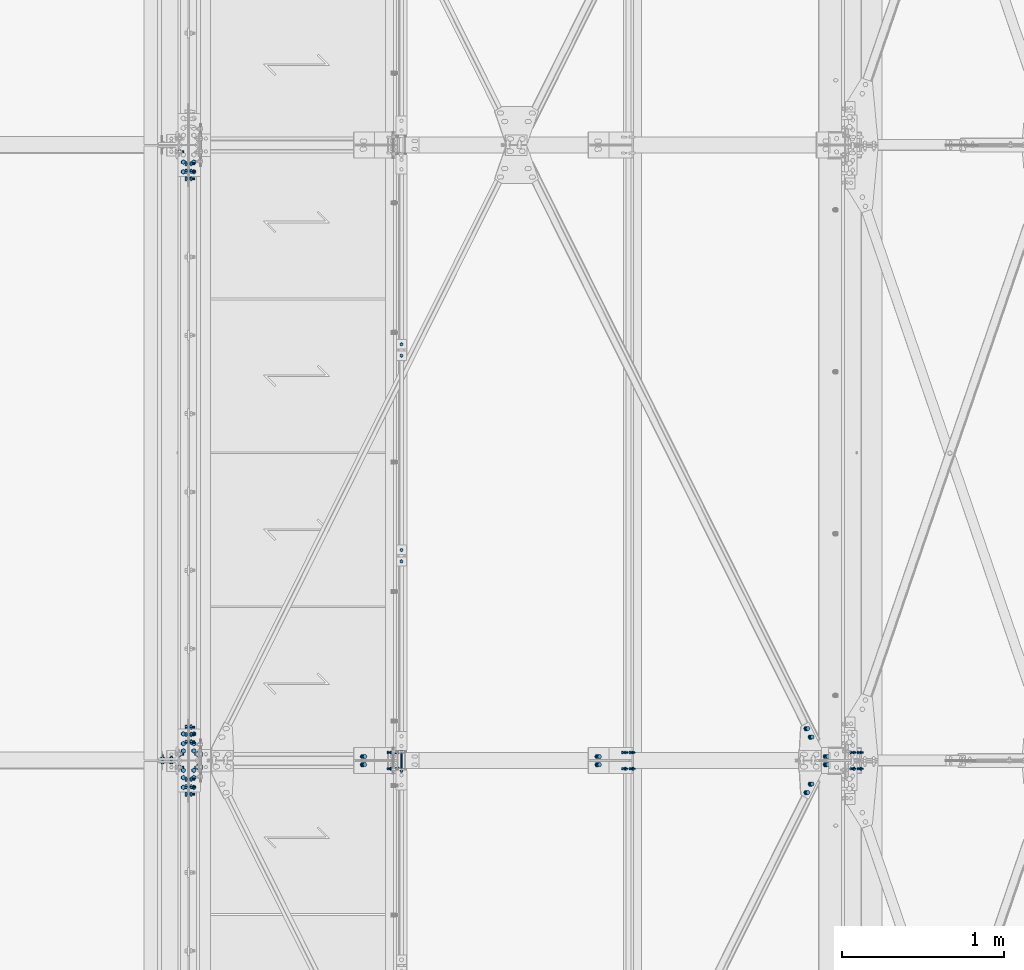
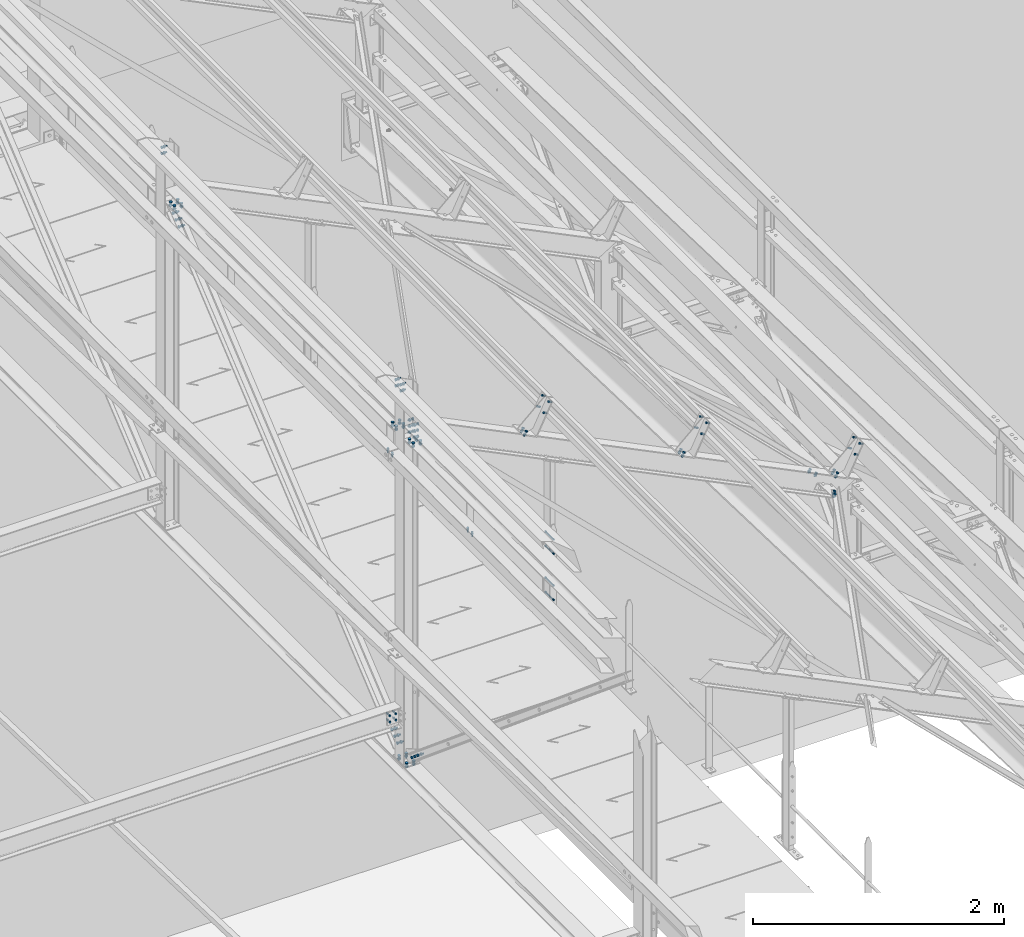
# One storey, part 191 of 362: 27 mechanical fasteners.
"""IFC2X3 building model written with IfcOpenShell, lengths in millimetres."""

from ifc_helpers import new_model, si_unit, frame, origin_with_axes, origin_2d_with_axis, place, context, subcontext, project, spatial, polyline, circle, outline, extrude, source, transform, mapped, material, type_object, element, save


model = new_model("IFC2X3")

# Units and contexts
model_context = context("Model", 3, precision=1e-05, world=origin_with_axes())
body_context = subcontext(model_context, "Body", "Model", "MODEL_VIEW")
ifc_project = project(units=[si_unit("LENGTHUNIT", "METRE", prefix="MILLI"), si_unit("AREAUNIT", "SQUARE_METRE"), si_unit("VOLUMEUNIT", "CUBIC_METRE"), si_unit("MASSUNIT", "GRAM", prefix="KILO"), si_unit("TIMEUNIT", "SECOND"), si_unit("PLANEANGLEUNIT", "RADIAN"), si_unit("SOLIDANGLEUNIT", "STERADIAN"), si_unit("THERMODYNAMICTEMPERATUREUNIT", "DEGREE_CELSIUS"), si_unit("LUMINOUSINTENSITYUNIT", "LUMEN")], contexts=[model_context])

# Site, building, storey
site_placement = place(None, origin_with_axes())
site = spatial("IfcSite", under=ifc_project, at=site_placement, Name="Undefined", CompositionType="ELEMENT")
building_placement = place(site_placement, origin_with_axes())
building = spatial("IfcBuilding", under=site, at=building_placement, Name="Undefined", CompositionType="ELEMENT")
storey_placement = place(building_placement, origin_with_axes())
storey = spatial("IfcBuildingStorey", under=building, at=storey_placement, Name="Undefined", CompositionType="ELEMENT", Elevation=0.0)

# Mechanical fasteners
ifc_material_1 = material(Name="8.8-SB-ZINGUE")
mechanical_fastener_type = type_object("IfcMechanicalFastenerType", Name="Bolt assembly")
shared_shape_1 = source(origin_with_axes(), body_context, "Body", "SweptSolid", [
    extrude(circle(Radius=7.0, at=origin_2d_with_axis()), frame((0.0, -0.100011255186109, 0.0), z_axis=(0.0, 1.0, 0.0), x_axis=(1.0, 0.0, 0.0)), (0.0, 0.0, 1.0), 3.1),
    extrude(circle(Radius=7.0, at=origin_2d_with_axis()), frame((0.0, -9.9, 0.0), z_axis=(0.0, 1.0, 0.0), x_axis=(1.0, 0.0, 0.0)), (0.0, 0.0, 1.0), 10.0),
    extrude(outline(polyline([(10.39230484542, 0.0), (5.19615242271, 9.00000000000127), (-5.19615242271, 9.00000000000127), (-10.39230484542, 0.0), (-5.19615242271, -9.00000000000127), (5.19615242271, -9.00000000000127), (10.39230484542, 0.0)])), frame((0.0, -17.92, 0.0), z_axis=(0.0, 1.0, 0.0), x_axis=(1.0, 0.0, 0.0)), (0.0, 0.0, 1.0), 7.92),
    extrude(circle(Radius=6.0, at=origin_2d_with_axis()), frame((0.0, -10.0000010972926, 0.0), z_axis=(0.0, 1.0, 0.0), x_axis=(1.0, 0.0, 0.0)), (0.0, 0.0, 1.0), 30.0),
    extrude(outline(polyline([(11.5008173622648, 0.0), (5.7504086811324, 9.96000000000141), (-5.7504086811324, 9.96000000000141), (-11.5008173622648, 0.0), (-5.7504086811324, -9.96000000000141), (5.7504086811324, -9.96000000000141), (11.5008173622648, 0.0)])), frame((0.0, 3.00000067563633, 0.0), z_axis=(0.0, 1.0, 0.0), x_axis=(1.0, 0.0, 0.0)), (0.0, 0.0, 1.0), 7.92),
])
mechanical_fastener_1_placement = place(storey_placement, frame((38381.4177064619, 7649.9999403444, 8807.89604207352), z_axis=(0.0, 1.0, 0.0), x_axis=(0.44122107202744, 0.0, 0.89739844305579)))
element("IfcMechanicalFastener", 1, at=mechanical_fastener_1_placement, inside=storey, type_object=mechanical_fastener_type, material=ifc_material_1, Name="Bolt assembly", NominalDiameter=12.0, NominalLength=30.0, context=body_context, shape_type="MappedRepresentation", body=[
    mapped(shared_shape_1, transform((0.0, 0.0, 0.0))),
    mapped(shared_shape_1, transform((99.9999999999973, -1.63709046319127e-11, 7.73070496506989e-12))),
])
shared_shape_2 = source(origin_with_axes(), body_context, "Body", "SweptSolid", [
    extrude(circle(Radius=7.0, at=origin_2d_with_axis()), frame((0.0, -0.10007666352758, 0.0), z_axis=(0.0, 1.0, 0.0), x_axis=(1.0, 0.0, 0.0)), (0.0, 0.0, 1.0), 3.1),
    extrude(circle(Radius=7.0, at=origin_2d_with_axis()), frame((0.0, -9.9, 0.0), z_axis=(0.0, 1.0, 0.0), x_axis=(1.0, 0.0, 0.0)), (0.0, 0.0, 1.0), 10.0),
    extrude(outline(polyline([(10.39230484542, 0.0), (5.19615242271, 9.00000000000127), (-5.19615242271, 9.00000000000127), (-10.39230484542, 0.0), (-5.19615242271, -9.00000000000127), (5.19615242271, -9.00000000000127), (10.39230484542, 0.0)])), frame((0.0, -17.92, 0.0), z_axis=(0.0, 1.0, 0.0), x_axis=(1.0, 0.0, 0.0)), (0.0, 0.0, 1.0), 7.92),
    extrude(circle(Radius=6.0, at=origin_2d_with_axis()), frame((0.0, -10.0000010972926, 0.0), z_axis=(0.0, 1.0, 0.0), x_axis=(1.0, 0.0, 0.0)), (0.0, 0.0, 1.0), 30.0),
    extrude(outline(polyline([(11.5008173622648, 0.0), (5.7504086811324, 9.96000000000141), (-5.7504086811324, 9.96000000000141), (-11.5008173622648, 0.0), (-5.7504086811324, -9.96000000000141), (5.7504086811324, -9.96000000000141), (11.5008173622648, 0.0)])), frame((0.0, 3.00000067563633, 0.0), z_axis=(0.0, 1.0, 0.0), x_axis=(1.0, 0.0, 0.0)), (0.0, 0.0, 1.0), 7.92),
])
mechanical_fastener_2_placement = place(storey_placement, frame((38381.4177064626, 7550.0000596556, 8807.89604207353), z_axis=(0.0, 1.0, 0.0), x_axis=(0.44122107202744, 0.0, 0.89739844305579)))
element("IfcMechanicalFastener", 2, at=mechanical_fastener_2_placement, inside=storey, type_object=mechanical_fastener_type, material=ifc_material_1, Name="Bolt assembly", NominalDiameter=12.0, NominalLength=30.0, context=body_context, shape_type="MappedRepresentation", body=[
    mapped(shared_shape_2, transform((0.0, 0.0, 0.0))),
    mapped(shared_shape_2, transform((99.9999999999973, -1.63709046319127e-11, 7.73070496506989e-12))),
])
shared_shape_3 = source(origin_with_axes(), body_context, "Body", "SweptSolid", [
    extrude(circle(Radius=9.0, at=origin_2d_with_axis()), frame((0.0, -10.9000000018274, 0.0), z_axis=(0.0, 1.0, 0.0), x_axis=(1.0, 0.0, 0.0)), (0.0, 0.0, 1.0), 6.0),
    extrude(circle(Radius=9.0, at=origin_2d_with_axis()), frame((0.0, 4.9000000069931, 0.0), z_axis=(0.0, 1.0, 0.0), x_axis=(1.0, 0.0, 0.0)), (0.0, 0.0, 1.0), 6.1),
    extrude(circle(Radius=9.0, at=origin_2d_with_axis()), frame((0.0, -3.99999923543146, 0.0), z_axis=(0.0, 1.0, 0.0), x_axis=(1.0, 0.0, 0.0)), (0.0, 0.0, 1.0), 8.0),
    extrude(outline(polyline([(13.85640646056, 0.0), (6.92820323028, 12.0000000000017), (-6.92820323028, 12.0000000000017), (-13.85640646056, 0.0), (-6.92820323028, -12.0000000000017), (6.92820323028, -12.0000000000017), (13.85640646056, 0.0)])), frame((0.0, -21.5600000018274, 0.0), z_axis=(0.0, 1.0, 0.0), x_axis=(1.0, 0.0, 0.0)), (0.0, 0.0, 1.0), 10.56),
    extrude(circle(Radius=8.0, at=origin_2d_with_axis()), frame((0.0, -11.0000000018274, 0.0), z_axis=(0.0, 1.0, 0.0), x_axis=(1.0, 0.0, 0.0)), (0.0, 0.0, 1.0), 50.0),
    extrude(outline(polyline([(15.3344231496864, 0.0), (7.6672115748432, 13.2800000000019), (-7.6672115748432, 13.2800000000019), (-15.3344231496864, 0.0), (-7.6672115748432, -13.2800000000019), (7.6672115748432, -13.2800000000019), (15.3344231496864, 0.0)])), frame((0.0, 11.0000000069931, 0.0), z_axis=(0.0, 1.0, 0.0), x_axis=(1.0, 0.0, 0.0)), (0.0, 0.0, 1.0), 10.56),
])
for number, where, z_axis, x_axis, name in (
    (3, (34280.0, 7715.13876122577, 7346.14086364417), (0.0, 0.640939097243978, -0.7675917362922), (0.0, 0.7675917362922, 0.640939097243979), "Bolt assembly"),
    (4, (34280.0, 7484.86123932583, 7346.14086413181), (0.0, 0.640939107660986, 0.767591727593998), (0.0, -0.767591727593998, 0.640939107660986), "Bolt assembly"),
    (5, (34280.0, 11284.8612400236, 10326.8591349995), (0.0, -0.640939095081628, 0.767591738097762), (0.0, -0.767591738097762, -0.640939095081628), "Bolt assembly"),
):
    element("IfcMechanicalFastener", number, at=place(storey_placement, frame(where, z_axis=z_axis, x_axis=x_axis)), inside=storey, type_object=mechanical_fastener_type, material=ifc_material_1, Name=name, NominalDiameter=16.0, NominalLength=50.0, context=body_context, shape_type="MappedRepresentation", body=[
        mapped(shared_shape_3, transform((0.0, 0.0, 0.0))),
        mapped(shared_shape_3, transform((60.0, 0.0, 0.0))),
        mapped(shared_shape_3, transform((120.0, 0.0, 0.0))),
    ])
shared_shape_4 = source(origin_with_axes(), body_context, "Body", "SweptSolid", [
    extrude(circle(Radius=7.0, at=origin_2d_with_axis()), frame((0.0, -10.0000010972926, 0.0), z_axis=(0.0, 1.0, 0.0), x_axis=(1.0, 0.0, 0.0)), (0.0, 0.0, 1.0), 10.1),
    extrude(outline(polyline([(10.39230484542, 0.0), (5.19615242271, 9.00000000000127), (-5.19615242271, 9.00000000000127), (-10.39230484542, 0.0), (-5.19615242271, -9.00000000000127), (5.19615242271, -9.00000000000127), (10.39230484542, 0.0)])), frame((0.0, -17.92, 0.0), z_axis=(0.0, 1.0, 0.0), x_axis=(1.0, 0.0, 0.0)), (0.0, 0.0, 1.0), 7.92),
    extrude(circle(Radius=6.0, at=origin_2d_with_axis()), frame((0.0, -10.0000010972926, 0.0), z_axis=(0.0, 1.0, 0.0), x_axis=(1.0, 0.0, 0.0)), (0.0, 0.0, 1.0), 40.0),
    extrude(outline(polyline([(11.5008173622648, 0.0), (5.7504086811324, 9.96000000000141), (-5.7504086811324, 9.96000000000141), (-11.5008173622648, 0.0), (-5.7504086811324, -9.96000000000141), (5.7504086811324, -9.96000000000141), (11.5008173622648, 0.0)])), frame((0.0, 0.0, 0.0), z_axis=(0.0, 1.0, 0.0), x_axis=(1.0, 0.0, 0.0)), (0.0, 0.0, 1.0), 7.92),
])
for number, where, z_axis, x_axis, name in (
    (6, (35593.9917176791, 8830.00343196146, 8240.00000102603), (-1.0, 0.0, 0.0), (0.0, 1.0, 0.0), "Bolt assembly"),
    (7, (35593.9917187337, 10100.0034319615, 8240.00000015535), (-1.0, 0.0, 0.0), (0.0, 1.0, 0.0), "Bolt assembly"),
):
    element("IfcMechanicalFastener", number, at=place(storey_placement, frame(where, z_axis=z_axis, x_axis=x_axis)), inside=storey, type_object=mechanical_fastener_type, material=ifc_material_1, Name=name, NominalDiameter=12.0, NominalLength=40.0, context=body_context, shape_type="MappedRepresentation", body=[
        mapped(shared_shape_4, transform((0.0, 0.0, 0.0))),
        mapped(shared_shape_4, transform((70.0, -2.91038304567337e-11, 2.18278728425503e-10))),
    ])
ifc_material_2 = material(Name="6.8")
shared_shape_5 = source(origin_with_axes(), body_context, "Body", "SweptSolid", [
    extrude(circle(Radius=7.0, at=origin_2d_with_axis()), frame((0.0, -49.9999013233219, 0.0), z_axis=(0.0, 1.0, 0.0), x_axis=(1.0, 0.0, 0.0)), (0.0, 0.0, 1.0), 100.0),
    extrude(circle(Radius=7.0, at=origin_2d_with_axis()), frame((0.0, -57.3998951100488, 0.0), z_axis=(0.0, 1.0, 0.0), x_axis=(1.0, 0.0, 0.0)), (0.0, 0.0, 1.0), 5.0),
    extrude(circle(Radius=7.0, at=origin_2d_with_axis()), frame((0.0, 52.4001048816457, 0.0), z_axis=(0.0, 1.0, 0.0), x_axis=(1.0, 0.0, 0.0)), (0.0, 0.0, 1.0), 5.1),
    extrude(outline(polyline([(10.96965511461, 0.0), (5.484827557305, 9.50000000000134), (-5.484827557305, 9.50000000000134), (-10.96965511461, 0.0), (-5.484827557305, -9.50000000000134), (5.484827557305, -9.50000000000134), (10.96965511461, 0.0)])), frame((0.0, -65.4998951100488, 0.0), z_axis=(0.0, 1.0, 0.0), x_axis=(1.0, 0.0, 0.0)), (0.0, 0.0, 1.0), 8.0),
    extrude(circle(Radius=6.0, at=origin_2d_with_axis()), frame((0.0, -57.4998951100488, 0.0), z_axis=(0.0, 1.0, 0.0), x_axis=(1.0, 0.0, 0.0)), (0.0, 0.0, 1.0), 130.0),
    extrude(outline(polyline([(10.39230484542, 0.0), (5.19615242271, 9.00000000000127), (-5.19615242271, 9.00000000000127), (-10.39230484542, 0.0), (-5.19615242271, -9.00000000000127), (5.19615242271, -9.00000000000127), (10.39230484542, 0.0)])), frame((0.0, 57.5001048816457, 0.0), z_axis=(0.0, 1.0, 0.0), x_axis=(1.0, 0.0, 0.0)), (0.0, 0.0, 1.0), 10.8),
])
for number, where, z_axis, x_axis, name in (
    (8, (35593.991717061, 7600.0000987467, 8450.17500434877), (0.0, 0.0, 1.0), (-1.0, 0.0, 0.0), "Bolt assembly"),
    (9, (35593.9917170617, 7600.00009908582, 8897.42500135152), (0.0, 0.0, 1.0), (-1.0, 0.0, 0.0), "Bolt assembly"),
):
    element("IfcMechanicalFastener", number, at=place(storey_placement, frame(where, z_axis=z_axis, x_axis=x_axis)), inside=storey, type_object=mechanical_fastener_type, material=ifc_material_2, Name=name, NominalDiameter=12.0, NominalLength=130.0, context=body_context, shape_type="MappedRepresentation", body=[
        mapped(shared_shape_5, transform((0.0, 6.3664629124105e-11, -70.0))),
        mapped(shared_shape_5, transform((0.0, -6.3664629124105e-11, 70.0))),
    ])
shared_shape_6 = source(origin_with_axes(), body_context, "Body", "SweptSolid", [
    extrude(circle(Radius=9.0, at=origin_2d_with_axis()), frame((0.0, -0.0999426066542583, 0.0), z_axis=(0.0, 1.0, 0.0), x_axis=(1.0, 0.0, 0.0)), (0.0, 0.0, 1.0), 8.6),
    extrude(circle(Radius=9.0, at=origin_2d_with_axis()), frame((0.0, -9.9, 0.0), z_axis=(0.0, 1.0, 0.0), x_axis=(1.0, 0.0, 0.0)), (0.0, 0.0, 1.0), 10.0),
    extrude(outline(polyline([(13.85640646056, 0.0), (6.92820323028, 12.0000000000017), (-6.92820323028, 12.0000000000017), (-13.85640646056, 0.0), (-6.92820323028, -12.0000000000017), (6.92820323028, -12.0000000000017), (13.85640646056, 0.0)])), frame((0.0, -20.5600000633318, 0.0), z_axis=(0.0, 1.0, 0.0), x_axis=(1.0, 0.0, 0.0)), (0.0, 0.0, 1.0), 10.56),
    extrude(circle(Radius=8.0, at=origin_2d_with_axis()), frame((0.0, -10.0000010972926, 0.0), z_axis=(0.0, 1.0, 0.0), x_axis=(1.0, 0.0, 0.0)), (0.0, 0.0, 1.0), 40.0),
    extrude(outline(polyline([(15.3344231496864, 0.0), (7.6672115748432, 13.2800000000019), (-7.6672115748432, 13.2800000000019), (-15.3344231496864, 0.0), (-7.6672115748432, -13.2800000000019), (7.6672115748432, -13.2800000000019), (15.3344231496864, 0.0)])), frame((0.0, 8.49999994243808, 0.0), z_axis=(0.0, 1.0, 0.0), x_axis=(1.0, 0.0, 0.0)), (0.0, 0.0, 1.0), 10.56),
])
for number, where, z_axis, x_axis, name in (
    (10, (38216.9694189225, 7600.00003751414, 8654.74008236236), (0.0, 1.0, 0.0), (0.897398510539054, 0.0, -0.44122093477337), "Bolt assembly"),
    (11, (35359.6856608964, 7600.00003751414, 10059.5712647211), (0.0, 1.0, 0.0), (0.897398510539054, 0.0, -0.44122093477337), "Bolt assembly"),
    (12, (36808.5189947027, 7600.00003751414, 9347.22820826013), (0.0, 1.0, 0.0), (0.897398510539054, 0.0, -0.44122093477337), "Bolt assembly"),
):
    element("IfcMechanicalFastener", number, at=place(storey_placement, frame(where, z_axis=z_axis, x_axis=x_axis)), inside=storey, type_object=mechanical_fastener_type, material=ifc_material_1, Name=name, NominalDiameter=16.0, NominalLength=40.0, context=body_context, shape_type="MappedRepresentation", body=[
        mapped(shared_shape_6, transform((0.0, 0.0, -25.0))),
        mapped(shared_shape_6, transform((0.0, 0.0, 25.0))),
    ])
shared_shape_7 = source(origin_with_axes(), body_context, "Body", "SweptSolid", [
    extrude(circle(Radius=7.0, at=origin_2d_with_axis()), frame((0.0, -0.100011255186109, 0.0), z_axis=(0.0, 1.0, 0.0), x_axis=(1.0, 0.0, 0.0)), (0.0, 0.0, 1.0), 1.6),
    extrude(circle(Radius=7.0, at=origin_2d_with_axis()), frame((0.0, -9.9, 0.0), z_axis=(0.0, 1.0, 0.0), x_axis=(1.0, 0.0, 0.0)), (0.0, 0.0, 1.0), 10.0),
    extrude(outline(polyline([(10.39230484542, 0.0), (5.19615242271, 9.00000000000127), (-5.19615242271, 9.00000000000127), (-10.39230484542, 0.0), (-5.19615242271, -9.00000000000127), (5.19615242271, -9.00000000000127), (10.39230484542, 0.0)])), frame((0.0, -17.92, 0.0), z_axis=(0.0, 1.0, 0.0), x_axis=(1.0, 0.0, 0.0)), (0.0, 0.0, 1.0), 7.92),
    extrude(circle(Radius=6.0, at=origin_2d_with_axis()), frame((0.0, -10.0000010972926, 0.0), z_axis=(0.0, 1.0, 0.0), x_axis=(1.0, 0.0, 0.0)), (0.0, 0.0, 1.0), 30.0),
    extrude(outline(polyline([(11.5008173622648, 0.0), (5.7504086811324, 9.96000000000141), (-5.7504086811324, 9.96000000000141), (-11.5008173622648, 0.0), (-5.7504086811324, -9.96000000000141), (5.7504086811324, -9.96000000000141), (11.5008173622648, 0.0)])), frame((0.0, 1.50001896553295, 0.0), z_axis=(0.0, 1.0, 0.0), x_axis=(1.0, 0.0, 0.0)), (0.0, 0.0, 1.0), 7.92),
])
for number, where, z_axis, x_axis, name in (
    (13, (35523.6927273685, 7649.9999403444, 10211.8298259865), (0.0, 1.0, 0.0), (0.44122107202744, 0.0, 0.89739844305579), "Bolt assembly"),
    (14, (36972.5260611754, 7649.9999403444, 9499.48676952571), (0.0, 1.0, 0.0), (0.44122107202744, 0.0, 0.89739844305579), "Bolt assembly"),
):
    element("IfcMechanicalFastener", number, at=place(storey_placement, frame(where, z_axis=z_axis, x_axis=x_axis)), inside=storey, type_object=mechanical_fastener_type, material=ifc_material_1, Name=name, NominalDiameter=12.0, NominalLength=30.0, context=body_context, shape_type="MappedRepresentation", body=[
        mapped(shared_shape_7, transform((0.0, 0.0, 0.0))),
        mapped(shared_shape_7, transform((102.00000000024, -2.51020537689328e-10, 0.0))),
    ])
shared_shape_8 = source(origin_with_axes(), body_context, "Body", "SweptSolid", [
    extrude(circle(Radius=7.0, at=origin_2d_with_axis()), frame((0.0, -0.10007666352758, 0.0), z_axis=(0.0, 1.0, 0.0), x_axis=(1.0, 0.0, 0.0)), (0.0, 0.0, 1.0), 1.6),
    extrude(circle(Radius=7.0, at=origin_2d_with_axis()), frame((0.0, -9.9, 0.0), z_axis=(0.0, 1.0, 0.0), x_axis=(1.0, 0.0, 0.0)), (0.0, 0.0, 1.0), 10.0),
    extrude(outline(polyline([(10.39230484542, 0.0), (5.19615242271, 9.00000000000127), (-5.19615242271, 9.00000000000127), (-10.39230484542, 0.0), (-5.19615242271, -9.00000000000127), (5.19615242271, -9.00000000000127), (10.39230484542, 0.0)])), frame((0.0, -17.92, 0.0), z_axis=(0.0, 1.0, 0.0), x_axis=(1.0, 0.0, 0.0)), (0.0, 0.0, 1.0), 7.92),
    extrude(circle(Radius=6.0, at=origin_2d_with_axis()), frame((0.0, -10.0000010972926, 0.0), z_axis=(0.0, 1.0, 0.0), x_axis=(1.0, 0.0, 0.0)), (0.0, 0.0, 1.0), 30.0),
    extrude(outline(polyline([(11.5008173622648, 0.0), (5.7504086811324, 9.96000000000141), (-5.7504086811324, 9.96000000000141), (-11.5008173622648, 0.0), (-5.7504086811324, -9.96000000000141), (5.7504086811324, -9.96000000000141), (11.5008173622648, 0.0)])), frame((0.0, 1.49996853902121, 0.0), z_axis=(0.0, 1.0, 0.0), x_axis=(1.0, 0.0, 0.0)), (0.0, 0.0, 1.0), 7.92),
])
for number, where, z_axis, x_axis, name in (
    (15, (35523.6927273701, 7550.0000596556, 10211.8298259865), (0.0, 1.0, 0.0), (0.44122107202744, 0.0, 0.89739844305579), "Bolt assembly"),
    (16, (36972.5260611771, 7550.0000596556, 9499.48676952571), (0.0, 1.0, 0.0), (0.44122107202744, 0.0, 0.89739844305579), "Bolt assembly"),
):
    element("IfcMechanicalFastener", number, at=place(storey_placement, frame(where, z_axis=z_axis, x_axis=x_axis)), inside=storey, type_object=mechanical_fastener_type, material=ifc_material_1, Name=name, NominalDiameter=12.0, NominalLength=30.0, context=body_context, shape_type="MappedRepresentation", body=[
        mapped(shared_shape_8, transform((0.0, 0.0, 0.0))),
        mapped(shared_shape_8, transform((102.00000000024, -2.51020537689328e-10, 0.0))),
    ])
ifc_material_3 = material(Name="#_SB-8.8-ZINGUE")
shared_shape_9 = source(origin_with_axes(), body_context, "Body", "SweptSolid", [
    extrude(circle(Radius=9.0, at=origin_2d_with_axis()), frame((0.0, -4.89876448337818, 0.0), z_axis=(0.0, 1.0, 0.0), x_axis=(1.0, 0.0, 0.0)), (0.0, 0.0, 1.0), 5.0),
    extrude(circle(Radius=9.0, at=origin_2d_with_axis()), frame((0.0, -0.100011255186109, 0.0), z_axis=(0.0, 1.0, 0.0), x_axis=(1.0, 0.0, 0.0)), (0.0, 0.0, 1.0), 6.1),
    extrude(outline(polyline([(13.85640646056, 0.0), (6.92820323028, 12.0000000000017), (-6.92820323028, 12.0000000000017), (-13.85640646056, 0.0), (-6.92820323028, -12.0000000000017), (6.92820323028, -12.0000000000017), (13.85640646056, 0.0)])), frame((0.0, -15.5587644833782, 0.0), z_axis=(0.0, 1.0, 0.0), x_axis=(1.0, 0.0, 0.0)), (0.0, 0.0, 1.0), 10.56),
    extrude(circle(Radius=8.0, at=origin_2d_with_axis()), frame((0.0, -4.99876448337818, 0.0), z_axis=(0.0, 1.0, 0.0), x_axis=(1.0, 0.0, 0.0)), (0.0, 0.0, 1.0), 30.0),
    extrude(outline(polyline([(15.3344231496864, 0.0), (7.6672115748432, 13.2800000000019), (-7.6672115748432, 13.2800000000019), (-15.3344231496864, 0.0), (-7.6672115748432, -13.2800000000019), (7.6672115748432, -13.2800000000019), (15.3344231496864, 0.0)])), frame((0.0, 6.0, 0.0), z_axis=(0.0, 1.0, 0.0), x_axis=(1.0, 0.0, 0.0)), (0.0, 0.0, 1.0), 10.56),
])
for number, where, z_axis, x_axis, name in (
    (17, (38123.2127006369, 7454.91117223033, 8589.40520284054), (0.784869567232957, -0.484835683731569, -0.385893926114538), (-0.43509087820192, -0.874605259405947, 0.213919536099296), "Bolt assembly"),
    (18, (38123.2126962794, 7745.08959124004, 8589.40520284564), (-0.78486955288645, -0.48483570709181, 0.385893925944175), (-0.435090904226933, 0.874605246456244, 0.213919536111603), "Bolt assembly"),
):
    element("IfcMechanicalFastener", number, at=place(storey_placement, frame(where, z_axis=z_axis, x_axis=x_axis)), inside=storey, type_object=mechanical_fastener_type, material=ifc_material_3, Name=name, NominalDiameter=16.0, NominalLength=30.0, context=body_context, shape_type="MappedRepresentation", body=[
        mapped(shared_shape_9, transform((0.0, 0.0, 0.0))),
        mapped(shared_shape_9, transform((60.0, 0.0, 0.0))),
    ])
shared_shape_10 = source(origin_with_axes(), body_context, "Body", "SweptSolid", [
    extrude(circle(Radius=9.0, at=origin_2d_with_axis()), frame((0.0, -0.091713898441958, 0.0), z_axis=(0.0, 1.0, 0.0), x_axis=(1.0, 0.0, 0.0)), (0.0, 0.0, 1.0), 8.6),
    extrude(circle(Radius=9.0, at=origin_2d_with_axis()), frame((0.0, -9.89171439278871, 0.0), z_axis=(0.0, 1.0, 0.0), x_axis=(1.0, 0.0, 0.0)), (0.0, 0.0, 1.0), 10.0),
    extrude(outline(polyline([(13.85640646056, 0.0), (6.92820323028, 12.0000000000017), (-6.92820323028, 12.0000000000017), (-13.85640646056, 0.0), (-6.92820323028, -12.0000000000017), (6.92820323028, -12.0000000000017), (13.85640646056, 0.0)])), frame((0.0, -20.5517143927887, 0.0), z_axis=(0.0, 1.0, 0.0), x_axis=(1.0, 0.0, 0.0)), (0.0, 0.0, 1.0), 10.56),
    extrude(circle(Radius=8.0, at=origin_2d_with_axis()), frame((0.0, -9.99171439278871, 0.0), z_axis=(0.0, 1.0, 0.0), x_axis=(1.0, 0.0, 0.0)), (0.0, 0.0, 1.0), 40.0),
    extrude(outline(polyline([(15.3344231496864, 0.0), (7.6672115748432, 13.2800000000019), (-7.6672115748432, 13.2800000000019), (-15.3344231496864, 0.0), (-7.6672115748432, -13.2800000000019), (7.6672115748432, -13.2800000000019), (15.3344231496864, 0.0)])), frame((0.0, 8.50828610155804, 0.0), z_axis=(0.0, 1.0, 0.0), x_axis=(1.0, 0.0, 0.0)), (0.0, 0.0, 1.0), 10.56),
])
mechanical_fastener_3_placement = place(storey_placement, frame((34346.5082856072, 7560.0, 10446.3709529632), z_axis=(0.0, 0.0, 1.0), x_axis=(0.0, 1.0, 0.0)))
element("IfcMechanicalFastener", 19, at=mechanical_fastener_3_placement, inside=storey, type_object=mechanical_fastener_type, material=ifc_material_1, Name="Bolt assembly", NominalDiameter=16.0, NominalLength=40.0, context=body_context, shape_type="MappedRepresentation", body=[
    mapped(shared_shape_10, transform((0.0, 0.0, -60.0))),
    mapped(shared_shape_10, transform((80.0, 0.0, -60.0))),
    mapped(shared_shape_10, transform((0.0, 0.0, 0.0))),
    mapped(shared_shape_10, transform((80.0, 0.0, 0.0))),
    mapped(shared_shape_10, transform((0.0, 0.0, 60.0))),
    mapped(shared_shape_10, transform((80.0, 0.0, 60.0))),
])
shared_shape_11 = source(origin_with_axes(), body_context, "Body", "SweptSolid", [
    extrude(circle(Radius=9.0, at=origin_2d_with_axis()), frame((0.0, -0.100011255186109, 0.0), z_axis=(0.0, 1.0, 0.0), x_axis=(1.0, 0.0, 0.0)), (0.0, 0.0, 1.0), 8.6),
    extrude(circle(Radius=9.0, at=origin_2d_with_axis()), frame((0.0, -2.9, 0.0), z_axis=(0.0, 1.0, 0.0), x_axis=(1.0, 0.0, 0.0)), (0.0, 0.0, 1.0), 3.0),
    extrude(outline(polyline([(13.85640646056, 0.0), (6.92820323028, 12.0000000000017), (-6.92820323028, 12.0000000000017), (-13.85640646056, 0.0), (-6.92820323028, -12.0000000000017), (6.92820323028, -12.0000000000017), (13.85640646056, 0.0)])), frame((0.0, -13.56, 0.0), z_axis=(0.0, 1.0, 0.0), x_axis=(1.0, 0.0, 0.0)), (0.0, 0.0, 1.0), 10.56),
    extrude(circle(Radius=8.0, at=origin_2d_with_axis()), frame((0.0, -2.99999932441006, 0.0), z_axis=(0.0, 1.0, 0.0), x_axis=(1.0, 0.0, 0.0)), (0.0, 0.0, 1.0), 40.0),
    extrude(outline(polyline([(15.3344231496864, 0.0), (7.6672115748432, 13.2800000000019), (-7.6672115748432, 13.2800000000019), (-15.3344231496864, 0.0), (-7.6672115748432, -13.2800000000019), (7.6672115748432, -13.2800000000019), (15.3344231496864, 0.0)])), frame((0.0, 8.49999994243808, 0.0), z_axis=(0.0, 1.0, 0.0), x_axis=(1.0, 0.0, 0.0)), (0.0, 0.0, 1.0), 10.56),
])
for number, where, z_axis, x_axis, name in (
    (20, (34213.49999895, 7639.99695097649, 10880.8421014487), (0.0, 1.0, 0.0), (0.0, 0.0, 1.0), "Bolt assembly"),
    (21, (34213.49999895, 7559.99999584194, 10880.8421014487), (0.0, 1.0, 0.0), (0.0, 0.0, 1.0), "Bolt assembly"),
    (22, (34213.49999895, 11359.9999958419, 10880.8421014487), (0.0, 1.0, 0.0), (0.0, 0.0, 1.0), "Bolt assembly"),
):
    element("IfcMechanicalFastener", number, at=place(storey_placement, frame(where, z_axis=z_axis, x_axis=x_axis)), inside=storey, type_object=mechanical_fastener_type, material=ifc_material_1, Name=name, NominalDiameter=16.0, NominalLength=40.0, context=body_context, shape_type="MappedRepresentation", body=[
        mapped(shared_shape_11, transform((0.0, 0.0, 0.0))),
        mapped(shared_shape_11, transform((60.0, 0.0, 0.0))),
    ])
shared_shape_12 = source(origin_with_axes(), body_context, "Body", "SweptSolid", [
    extrude(circle(Radius=7.0, at=origin_2d_with_axis()), frame((0.0, -2.80024280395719, 0.0), z_axis=(0.0, 1.0, 0.0), x_axis=(1.0, 0.0, 0.0)), (0.0, 0.0, 1.0), 5.6),
    extrude(circle(Radius=7.0, at=origin_2d_with_axis()), frame((0.0, -12.9001594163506, 0.0), z_axis=(0.0, 1.0, 0.0), x_axis=(1.0, 0.0, 0.0)), (0.0, 0.0, 1.0), 10.0),
    extrude(circle(Radius=7.0, at=origin_2d_with_axis()), frame((0.0, 2.90070287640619, 0.0), z_axis=(0.0, 1.0, 0.0), x_axis=(1.0, 0.0, 0.0)), (0.0, 0.0, 1.0), 10.1),
    extrude(outline(polyline([(10.39230484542, 0.0), (5.19615242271, 9.00000000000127), (-5.19615242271, 9.00000000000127), (-10.39230484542, 0.0), (-5.19615242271, -9.00000000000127), (5.19615242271, -9.00000000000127), (10.39230484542, 0.0)])), frame((0.0, -20.9201594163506, 0.0), z_axis=(0.0, 1.0, 0.0), x_axis=(1.0, 0.0, 0.0)), (0.0, 0.0, 1.0), 7.92),
    extrude(circle(Radius=6.0, at=origin_2d_with_axis()), frame((0.0, -13.0001594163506, 0.0), z_axis=(0.0, 1.0, 0.0), x_axis=(1.0, 0.0, 0.0)), (0.0, 0.0, 1.0), 50.0),
    extrude(outline(polyline([(11.5008173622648, 0.0), (5.7504086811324, 9.96000000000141), (-5.7504086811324, 9.96000000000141), (-11.5008173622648, 0.0), (-5.7504086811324, -9.96000000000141), (5.7504086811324, -9.96000000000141), (11.5008173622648, 0.0)])), frame((0.0, 13.0007028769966, 0.0), z_axis=(0.0, 1.0, 0.0), x_axis=(1.0, 0.0, 0.0)), (0.0, 0.0, 1.0), 7.92),
])
mechanical_fastener_4_placement = place(storey_placement, frame((34118.4999999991, 7600.00019987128, 7711.11094101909), z_axis=(7.58071938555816e-11, 0.0314107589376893, 0.999506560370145), x_axis=(0.999999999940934, -1.08559999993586e-05, 5.27999997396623e-07)))
element("IfcMechanicalFastener", 23, at=mechanical_fastener_4_placement, inside=storey, type_object=mechanical_fastener_type, material=ifc_material_1, Name="Bolt assembly", NominalDiameter=12.0, NominalLength=50.0, context=body_context, shape_type="MappedRepresentation", body=[
    mapped(shared_shape_12, transform((0.0, 0.0, -30.0))),
    mapped(shared_shape_12, transform((55.0000000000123, 3.45607986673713e-11, -30.0000000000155))),
    mapped(shared_shape_12, transform((0.0, 0.0, 30.0))),
    mapped(shared_shape_12, transform((54.9999999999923, 3.45607986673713e-11, 29.9999999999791))),
])
shared_shape_13 = source(origin_with_axes(), body_context, "Body", "SweptSolid", [
    extrude(circle(Radius=9.0, at=origin_2d_with_axis()), frame((0.0, -0.10007666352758, 0.0), z_axis=(0.0, 1.0, 0.0), x_axis=(1.0, 0.0, 0.0)), (0.0, 0.0, 1.0), 8.6),
    extrude(circle(Radius=9.0, at=origin_2d_with_axis()), frame((0.0, -9.9, 0.0), z_axis=(0.0, 1.0, 0.0), x_axis=(1.0, 0.0, 0.0)), (0.0, 0.0, 1.0), 10.0),
    extrude(outline(polyline([(13.85640646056, 0.0), (6.92820323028, 12.0000000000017), (-6.92820323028, 12.0000000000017), (-13.85640646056, 0.0), (-6.92820323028, -12.0000000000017), (6.92820323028, -12.0000000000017), (13.85640646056, 0.0)])), frame((0.0, -20.5600000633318, 0.0), z_axis=(0.0, 1.0, 0.0), x_axis=(1.0, 0.0, 0.0)), (0.0, 0.0, 1.0), 10.56),
    extrude(circle(Radius=8.0, at=origin_2d_with_axis()), frame((0.0, -10.0000010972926, 0.0), z_axis=(0.0, 1.0, 0.0), x_axis=(1.0, 0.0, 0.0)), (0.0, 0.0, 1.0), 40.0),
    extrude(outline(polyline([(15.3344231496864, 0.0), (7.6672115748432, 13.2800000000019), (-7.6672115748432, 13.2800000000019), (-15.3344231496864, 0.0), (-7.6672115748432, -13.2800000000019), (7.6672115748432, -13.2800000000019), (15.3344231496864, 0.0)])), frame((0.0, 8.49999994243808, 0.0), z_axis=(0.0, 1.0, 0.0), x_axis=(1.0, 0.0, 0.0)), (0.0, 0.0, 1.0), 10.56),
])
mechanical_fastener_5_placement = place(storey_placement, frame((34280.0, 7540.00000000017, 7249.99996842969), z_axis=(-1.0, 0.0, 0.0), x_axis=(0.0, 1.0, 0.0)))
element("IfcMechanicalFastener", 24, at=mechanical_fastener_5_placement, inside=storey, type_object=mechanical_fastener_type, material=ifc_material_1, Name="Bolt assembly", NominalDiameter=16.0, NominalLength=40.0, context=body_context, shape_type="MappedRepresentation", body=[
    mapped(shared_shape_13, transform((0.0, 0.0, -32.5))),
    mapped(shared_shape_13, transform((120.0, 0.0, -32.5))),
    mapped(shared_shape_13, transform((0.0, 0.0, 32.5))),
    mapped(shared_shape_13, transform((120.0, 0.0, 32.5))),
])
shared_shape_14 = source(origin_with_axes(), body_context, "Body", "SweptSolid", [
    extrude(circle(Radius=9.0, at=origin_2d_with_axis()), frame((0.0, -8.40001950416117, 0.0), z_axis=(0.0, 1.0, 0.0), x_axis=(1.0, 0.0, 0.0)), (0.0, 0.0, 1.0), 8.5),
    extrude(circle(Radius=9.0, at=origin_2d_with_axis()), frame((0.0, -0.100011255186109, 0.0), z_axis=(0.0, 1.0, 0.0), x_axis=(1.0, 0.0, 0.0)), (0.0, 0.0, 1.0), 10.1),
    extrude(outline(polyline([(13.85640646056, 0.0), (6.92820323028, 12.0000000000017), (-6.92820323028, 12.0000000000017), (-13.85640646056, 0.0), (-6.92820323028, -12.0000000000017), (6.92820323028, -12.0000000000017), (13.85640646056, 0.0)])), frame((0.0, -19.0599999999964, 0.0), z_axis=(0.0, 1.0, 0.0), x_axis=(1.0, 0.0, 0.0)), (0.0, 0.0, 1.0), 10.56),
    extrude(circle(Radius=8.0, at=origin_2d_with_axis()), frame((0.0, -8.5, 0.0), z_axis=(0.0, 1.0, 0.0), x_axis=(1.0, 0.0, 0.0)), (0.0, 0.0, 1.0), 40.0),
    extrude(outline(polyline([(15.3344231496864, 0.0), (7.6672115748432, 13.2800000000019), (-7.6672115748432, 13.2800000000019), (-15.3344231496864, 0.0), (-7.6672115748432, -13.2800000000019), (7.6672115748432, -13.2800000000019), (15.3344231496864, 0.0)])), frame((0.0, 10.0000000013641, 0.0), z_axis=(0.0, 1.0, 0.0), x_axis=(1.0, 0.0, 0.0)), (0.0, 0.0, 1.0), 10.56),
])
mechanical_fastener_6_placement = place(storey_placement, frame((34280.0000000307, 7494.99692211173, 10423.0), z_axis=(1.0, 0.0, 0.0), x_axis=(0.0, -1.0, 0.0)))
element("IfcMechanicalFastener", 25, at=mechanical_fastener_6_placement, inside=storey, type_object=mechanical_fastener_type, material=ifc_material_1, Name="Bolt assembly", NominalDiameter=16.0, NominalLength=40.0, context=body_context, shape_type="MappedRepresentation", body=[
    mapped(shared_shape_14, transform((0.0, 0.0, 32.5))),
    mapped(shared_shape_14, transform((60.0, 0.0, 32.5))),
    mapped(shared_shape_14, transform((0.0, 0.0, -32.5))),
    mapped(shared_shape_14, transform((60.0, 0.0, -32.5))),
])
mechanical_fastener_7_placement = place(storey_placement, frame((34280.0000000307, 7705.0, 10423.0), z_axis=(-1.0, 0.0, 0.0), x_axis=(0.0, 1.0, 0.0)))
element("IfcMechanicalFastener", 26, at=mechanical_fastener_7_placement, inside=storey, type_object=mechanical_fastener_type, material=ifc_material_1, Name="Bolt assembly", NominalDiameter=16.0, NominalLength=40.0, context=body_context, shape_type="MappedRepresentation", body=[
    mapped(shared_shape_14, transform((0.0, 0.0, -32.5))),
    mapped(shared_shape_14, transform((60.0, 0.0, -32.5))),
    mapped(shared_shape_14, transform((0.0, 0.0, 32.5))),
    mapped(shared_shape_14, transform((60.0, 0.0, 32.5))),
])
mechanical_fastener_8_placement = place(storey_placement, frame((34280.0000000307, 11294.9969221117, 10423.0), z_axis=(1.0, 0.0, 0.0), x_axis=(0.0, -1.0, 0.0)))
element("IfcMechanicalFastener", 27, at=mechanical_fastener_8_placement, inside=storey, type_object=mechanical_fastener_type, material=ifc_material_1, Name="Bolt assembly", NominalDiameter=16.0, NominalLength=40.0, context=body_context, shape_type="MappedRepresentation", body=[
    mapped(shared_shape_14, transform((0.0, 0.0, 32.5))),
    mapped(shared_shape_14, transform((60.0, 0.0, 32.5))),
    mapped(shared_shape_14, transform((0.0, 0.0, -32.5))),
    mapped(shared_shape_14, transform((60.0, 0.0, -32.5))),
])

save(model, "model.ifc")
